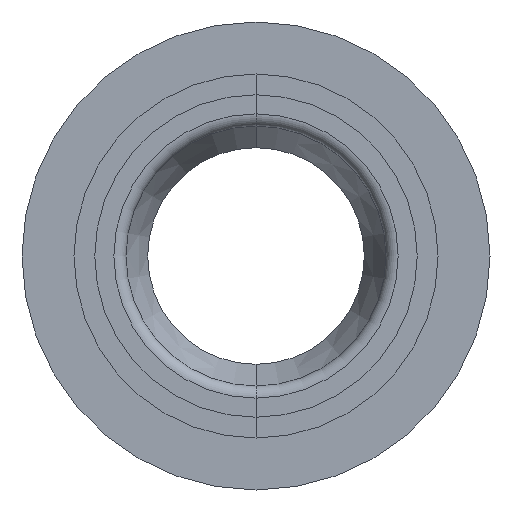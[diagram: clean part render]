
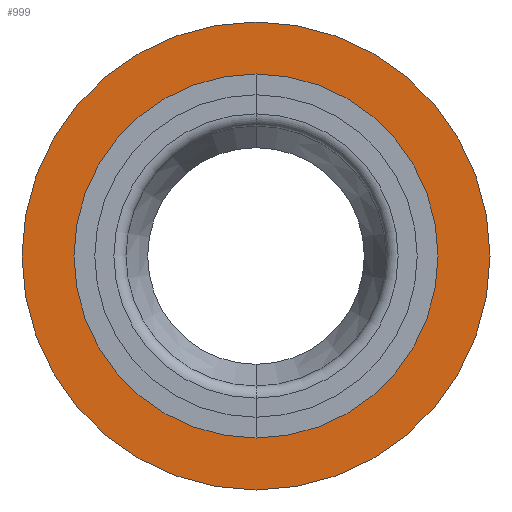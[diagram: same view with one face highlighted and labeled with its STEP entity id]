
A CAD part, front view. The second image highlights one B-rep face of the part: STEP entity #999.
In plain terms, the highlighted planar face has unit normal (0, -1, 0).
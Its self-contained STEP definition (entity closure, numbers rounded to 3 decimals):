
#703 = VERTEX_POINT ( 'NONE', #2733 ) ;
#772 = VERTEX_POINT ( 'NONE', #2919 ) ;
#776 = VERTEX_POINT ( 'NONE', #2911 ) ;
#779 = EDGE_CURVE ( 'NONE', #776, #772, #2904, .T. ) ;
#890 = EDGE_CURVE ( 'NONE', #703, #1258, #3147, .T. ) ;
#999 = ADVANCED_FACE ( 'NONE', ( #3211, #3205 ), #3212, .F. ) ;
#1001 = ORIENTED_EDGE ( 'NONE', *, *, #779, .F. ) ;
#1002 = ORIENTED_EDGE ( 'NONE', *, *, #1169, .T. ) ;
#1003 = ORIENTED_EDGE ( 'NONE', *, *, #890, .T. ) ;
#1118 = EDGE_LOOP ( 'NONE', ( #1001, #1120 ) ) ;
#1120 = ORIENTED_EDGE ( 'NONE', *, *, #1166, .F. ) ;
#1135 = EDGE_LOOP ( 'NONE', ( #1003, #1002 ) ) ;
#1166 = EDGE_CURVE ( 'NONE', #772, #776, #3543, .T. ) ;
#1169 = EDGE_CURVE ( 'NONE', #1258, #703, #3513, .T. ) ;
#1258 = VERTEX_POINT ( 'NONE', #3762 ) ;
#2733 = CARTESIAN_POINT ( 'NONE',  ( 0., -25., -13.5 ) ) ;
#2899 = AXIS2_PLACEMENT_3D ( 'NONE', #2999, #2998, #2997 ) ;
#2904 = CIRCLE ( 'NONE', #2899, 9.3 ) ;
#2911 = CARTESIAN_POINT ( 'NONE',  ( 0., -25., -9.3 ) ) ;
#2919 = CARTESIAN_POINT ( 'NONE',  ( 0., -25., 9.3 ) ) ;
#2997 = DIRECTION ( 'NONE',  ( 0., 0., -1. ) ) ;
#2998 = DIRECTION ( 'NONE',  ( 0., -1., 0. ) ) ;
#2999 = CARTESIAN_POINT ( 'NONE',  ( 0., -25., 0. ) ) ;
#3107 = DIRECTION ( 'NONE',  ( 0., 0., -1. ) ) ;
#3108 = DIRECTION ( 'NONE',  ( 0., -1., 0. ) ) ;
#3147 = CIRCLE ( 'NONE', #3195, 13.5 ) ;
#3195 = AXIS2_PLACEMENT_3D ( 'NONE', #3196, #3108, #3107 ) ;
#3196 = CARTESIAN_POINT ( 'NONE',  ( 0., -25., 0. ) ) ;
#3205 = FACE_OUTER_BOUND ( 'NONE', #1135, .T. ) ;
#3210 = AXIS2_PLACEMENT_3D ( 'NONE', #3339, #3383, #3228 ) ;
#3211 = FACE_BOUND ( 'NONE', #1118, .T. ) ;
#3212 = PLANE ( 'NONE',  #3210 ) ;
#3228 = DIRECTION ( 'NONE',  ( 0., 0., 1. ) ) ;
#3339 = CARTESIAN_POINT ( 'NONE',  ( -11.5, -25., 0. ) ) ;
#3383 = DIRECTION ( 'NONE',  ( 0., 1., 0. ) ) ;
#3509 = DIRECTION ( 'NONE',  ( 0., 0., -1. ) ) ;
#3510 = DIRECTION ( 'NONE',  ( 0., -1., 0. ) ) ;
#3511 = CARTESIAN_POINT ( 'NONE',  ( 0., -25., 0. ) ) ;
#3512 = AXIS2_PLACEMENT_3D ( 'NONE', #3511, #3510, #3509 ) ;
#3513 = CIRCLE ( 'NONE', #3512, 13.5 ) ;
#3515 = DIRECTION ( 'NONE',  ( 0., 0., -1. ) ) ;
#3516 = DIRECTION ( 'NONE',  ( 0., -1., 0. ) ) ;
#3517 = AXIS2_PLACEMENT_3D ( 'NONE', #3521, #3516, #3515 ) ;
#3521 = CARTESIAN_POINT ( 'NONE',  ( 0., -25., 0. ) ) ;
#3543 = CIRCLE ( 'NONE', #3517, 9.3 ) ;
#3762 = CARTESIAN_POINT ( 'NONE',  ( 0., -25., 13.5 ) ) ;
